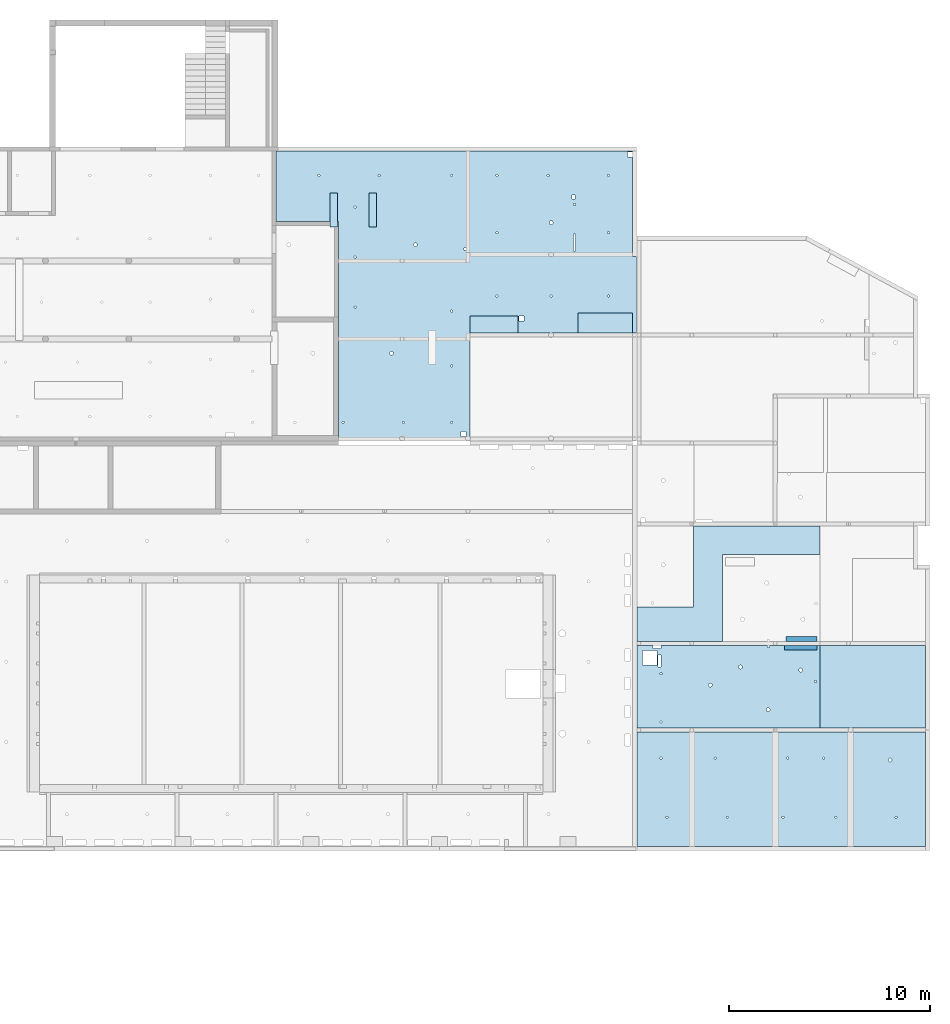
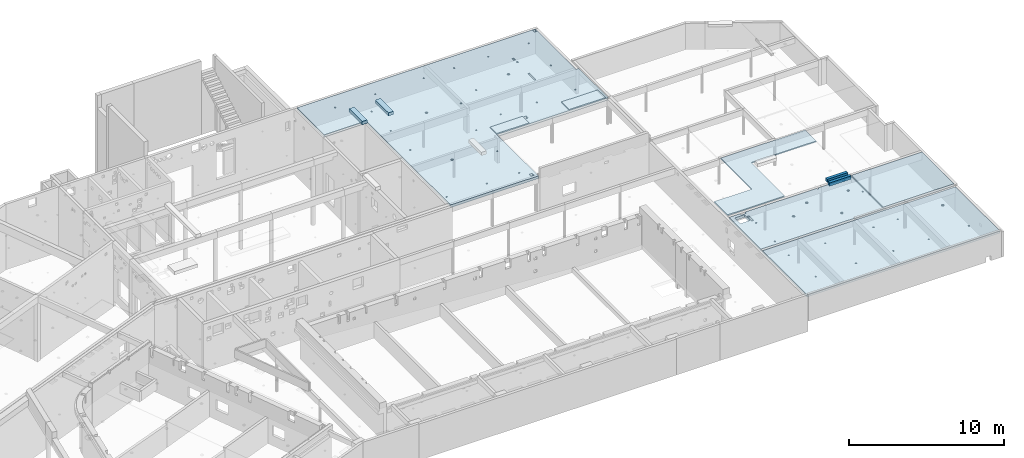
# One storey, part 12 of 28: 11 slabs, 54 openings.
"""IFC2X3 building model written with IfcOpenShell, lengths in metres."""

from ifc_helpers import new_model, entity, si_unit, converted_unit, direction, frame, frame_2d, origin, origin_with_axes, origin_2d_with_axis, place, context, subcontext, project, spatial, polyline, rectangle, circle, outline, extrude, material, element, save


model = new_model("IFC2X3")

# Units and contexts
model_context = context("Model", 3, precision=1e-05, world=origin(), true_north=direction((-0.407059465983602, -0.913401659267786)))
body_context = subcontext(model_context, "Body", "Model", "MODEL_VIEW")
ifc_project = project(units=[si_unit("LENGTHUNIT", "METRE"), si_unit("AREAUNIT", "SQUARE_METRE"), si_unit("VOLUMEUNIT", "CUBIC_METRE"), si_unit("MASSUNIT", "GRAM", prefix="KILO"), converted_unit("PLANEANGLEUNIT", "DEGREE", entity("IfcPlaneAngleMeasure", 0.0174532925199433), si_unit("PLANEANGLEUNIT", "RADIAN"), dimensions=[0, 0, 0, 0, 0, 0, 0])], contexts=[model_context])

# Site, buildings, storey
site_placement = place(None, origin())
site = spatial("IfcSite", under=ifc_project, at=site_placement, Name="Site", CompositionType="ELEMENT")
building_1_placement = place(site_placement, origin())
building_1 = spatial("IfcBuilding", under=site, at=building_1_placement, Name="Site", CompositionType="COMPLEX")
building_2_placement = place(building_1_placement, origin())
building_2 = spatial("IfcBuilding", under=building_1, at=building_2_placement, Name="Bâtiments", CompositionType="ELEMENT")
storey_placement = place(building_2_placement, frame((0.0, 0.0, -5.3)))
storey = spatial("IfcBuildingStorey", under=building_2, at=storey_placement, Name="SOUS-SOL", CompositionType="ELEMENT", Elevation=-5.3)

# Slabs
ifc_material_1 = material(Name="Dalle_BA")
slab_1_placement = place(storey_placement, frame((48.1333512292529, 5.44096103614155, 5.18)))
element("IfcSlab", 1, at=slab_1_placement, inside=storey, material=ifc_material_1, PredefinedType="FLOOR", context=body_context, shape_type="SweptSolid", body=[
    extrude(rectangle(XDim=1.68, YDim=0.38, at=frame_2d((0.19, -0.840000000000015), x_axis=(0.0, -1.0))), frame((0.0, 1.68000000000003, 0.0), z_axis=(0.0, 0.0, 1.0), x_axis=(1.0, 0.0, 0.0)), (0.0, 0.0, 1.0), 0.26),
])
ifc_material_2 = material(Name="Dalle_BA")
slab_2_placement = place(storey_placement, frame((50.0832004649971, 5.44068952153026, 5.18)))
element("IfcSlab", 2, at=slab_2_placement, inside=storey, material=ifc_material_2, PredefinedType="FLOOR", context=body_context, shape_type="SweptSolid", body=[
    extrude(rectangle(XDim=1.68, YDim=0.38, at=frame_2d((0.19, -0.840000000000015), x_axis=(0.0, -1.0))), frame((0.0, 1.68000000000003, 0.0), z_axis=(0.0, 0.0, 1.0), x_axis=(1.0, 0.0, 0.0)), (0.0, 0.0, 1.0), 0.26),
])

# Slab, openings
ifc_material_3 = material(Name="Béton")
slab_3_placement = place(storey_placement, frame((45.4426440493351, -5.21895159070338, 4.98)))
slab_3 = element("IfcSlab", 3, at=slab_3_placement, inside=storey, material=ifc_material_3, PredefinedType="FLOOR", context=body_context, shape_type="SweptSolid", body=[
    extrude(outline(polyline([(7.27595761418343e-15, 10.9174168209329), (3.12205293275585, 10.9174168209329), (3.12205293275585, 1.41233578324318e-05), (9.66983735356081, 0.0), (9.6698326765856, 5.3706806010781), (17.9707460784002, 5.37068060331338), (17.9707461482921, 9.17483260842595), (17.7707461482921, 9.17483261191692), (17.7707462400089, 14.4293388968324), (0.0, 14.4293388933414), (7.27595761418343e-15, 10.9174168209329)])), origin_with_axes(), (0.0, 0.0, 1.0), 0.2),
])
opening_1_placement = place(slab_3_placement, frame((5.66551482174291, 4.27169191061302, 0.0)))
element("IfcOpeningElement", 4, at=opening_1_placement, cuts=slab_3, Name="Trémie dans dalle", ObjectType="Opening", context=body_context, shape_type="SweptSolid", body=[
    extrude(circle(Radius=0.0900000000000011, at=origin_2d_with_axis()), frame((0.089628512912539, 0.0896285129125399, 0.0), z_axis=(0.0, 0.0, 1.0), x_axis=(1.0, 0.0, 0.0)), (0.0, 0.0, 1.0), 0.2),
])
opening_2_placement = place(slab_3_placement, frame((6.86749722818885, 9.67670728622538, 0.0)))
element("IfcOpeningElement", 5, at=opening_2_placement, cuts=slab_3, Name="Trémie dans dalle", ObjectType="Opening", context=body_context, shape_type="SweptSolid", body=[
    extrude(circle(Radius=0.0900000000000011, at=frame_2d((-1.45519152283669e-14, 9.09494701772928e-16), x_axis=(1.0, 0.0))), frame((0.0896285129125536, 0.089628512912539, 0.0), z_axis=(0.0, 0.0, 1.0), x_axis=(1.0, 0.0, 0.0)), (0.0, 0.0, 1.0), 0.2),
])
opening_3_placement = place(slab_3_placement, frame((3.90236731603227, 11.5939776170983, 0.0)))
element("IfcOpeningElement", 6, at=opening_3_placement, cuts=slab_3, Name="Trémie dans dalle", ObjectType="Opening", context=body_context, shape_type="SweptSolid", body=[
    extrude(circle(Radius=0.05, at=frame_2d((1.45519152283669e-14, 0.0), x_axis=(1.0, 0.0))), frame((0.0497936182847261, 0.0497936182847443, 0.0), z_axis=(0.0, 0.0, 1.0), x_axis=(1.0, 0.0, 0.0)), (0.0, 0.0, 1.0), 0.2),
])
opening_4_placement = place(slab_3_placement, frame((3.90271825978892, 9.10071324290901, 0.0)))
element("IfcOpeningElement", 7, at=opening_4_placement, cuts=slab_3, Name="Trémie dans dalle", ObjectType="Opening", context=body_context, shape_type="SweptSolid", body=[
    extrude(circle(Radius=0.05, at=frame_2d((-1.45519152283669e-14, 0.0), x_axis=(1.0, 0.0))), frame((0.0497936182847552, 0.0497936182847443, 0.0), z_axis=(0.0, 0.0, 1.0), x_axis=(1.0, 0.0, 0.0)), (0.0, 0.0, 1.0), 0.2),
])
opening_5_placement = place(slab_3_placement, frame((3.90308010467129, 6.60742084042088, 0.0)))
element("IfcOpeningElement", 8, at=opening_5_placement, cuts=slab_3, Name="Trémie dans dalle", ObjectType="Opening", context=body_context, shape_type="SweptSolid", body=[
    extrude(circle(Radius=0.05, at=frame_2d((-1.45519152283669e-14, -4.54747350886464e-16), x_axis=(1.0, 0.0))), frame((0.0497936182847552, 0.0497936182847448, 0.0), z_axis=(0.0, 0.0, 1.0), x_axis=(1.0, 0.0, 0.0)), (0.0, 0.0, 1.0), 0.2),
])
opening_6_placement = place(slab_3_placement, frame((8.7143975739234, 6.41154218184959, 0.0)))
element("IfcOpeningElement", 9, at=opening_6_placement, cuts=slab_3, Name="Trémie dans dalle", ObjectType="Opening", context=body_context, shape_type="SweptSolid", body=[
    extrude(circle(Radius=0.05, at=origin_2d_with_axis()), frame((0.0497936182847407, 0.0497936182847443, 0.0), z_axis=(0.0, 0.0, 1.0), x_axis=(1.0, 0.0, 0.0)), (0.0, 0.0, 1.0), 0.2),
])
opening_7_placement = place(slab_3_placement, frame((8.71439759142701, 3.68179981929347, 0.0)))
element("IfcOpeningElement", 10, at=opening_7_placement, cuts=slab_3, Name="Trémie dans dalle", ObjectType="Opening", context=body_context, shape_type="SweptSolid", body=[
    extrude(circle(Radius=0.05, at=frame_2d((7.27595761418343e-15, -4.54747350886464e-16), x_axis=(1.0, 0.0))), frame((0.0497936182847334, 0.0497936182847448, 0.0), z_axis=(0.0, 0.0, 1.0), x_axis=(1.0, 0.0, 0.0)), (0.0, 0.0, 1.0), 0.2),
])
opening_8_placement = place(slab_3_placement, frame((8.71030574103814, 0.863542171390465, 0.0)))
element("IfcOpeningElement", 11, at=opening_8_placement, cuts=slab_3, Name="Trémie dans dalle", ObjectType="Opening", context=body_context, shape_type="SweptSolid", body=[
    extrude(circle(Radius=0.05, at=frame_2d((1.45519152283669e-14, 9.09494701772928e-16), x_axis=(1.0, 0.0))), frame((0.0497936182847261, 0.0497936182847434, 0.0), z_axis=(0.0, 0.0, 1.0), x_axis=(1.0, 0.0, 0.0)), (0.0, 0.0, 1.0), 0.2),
])
opening_9_placement = place(slab_3_placement, frame((6.30634099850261, 0.863542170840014, 0.0)))
element("IfcOpeningElement", 12, at=opening_9_placement, cuts=slab_3, Name="Trémie dans dalle", ObjectType="Opening", context=body_context, shape_type="SweptSolid", body=[
    extrude(circle(Radius=0.05, at=frame_2d((7.27595761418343e-15, -9.09494701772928e-16), x_axis=(1.0, 0.0))), frame((0.0497936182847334, 0.0497936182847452, 0.0), z_axis=(0.0, 0.0, 1.0), x_axis=(1.0, 0.0, 0.0)), (0.0, 0.0, 1.0), 0.2),
])
opening_10_placement = place(slab_3_placement, frame((3.30138497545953, 0.863430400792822, 0.0)))
element("IfcOpeningElement", 13, at=opening_10_placement, cuts=slab_3, Name="Trémie dans dalle", ObjectType="Opening", context=body_context, shape_type="SweptSolid", body=[
    extrude(circle(Radius=0.05, at=frame_2d((-1.45519152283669e-14, -1.81898940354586e-15), x_axis=(1.0, 0.0))), frame((0.0497936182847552, 0.0497936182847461, 0.0), z_axis=(0.0, 0.0, 1.0), x_axis=(1.0, 0.0, 0.0)), (0.0, 0.0, 1.0), 0.2),
])
opening_11_placement = place(slab_3_placement, frame((2.09936731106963, 13.1725427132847, 0.0)))
element("IfcOpeningElement", 14, at=opening_11_placement, cuts=slab_3, Name="Trémie dans dalle", ObjectType="Opening", context=body_context, shape_type="SweptSolid", body=[
    extrude(circle(Radius=0.05, at=frame_2d((0.0, 1.81898940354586e-15), x_axis=(1.0, 0.0))), frame((0.0497936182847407, 0.0497936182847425, 0.0), z_axis=(0.0, 0.0, 1.0), x_axis=(1.0, 0.0, 0.0)), (0.0, 0.0, 1.0), 0.2),
])
opening_12_placement = place(slab_3_placement, frame((5.10436731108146, 13.1725422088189, 0.0)))
element("IfcOpeningElement", 15, at=opening_12_placement, cuts=slab_3, Name="Trémie dans dalle", ObjectType="Opening", context=body_context, shape_type="SweptSolid", body=[
    extrude(circle(Radius=0.05, at=frame_2d((-1.45519152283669e-14, -4.54747350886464e-15), x_axis=(1.0, 0.0))), frame((0.0497936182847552, 0.0497936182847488, 0.0), z_axis=(0.0, 0.0, 1.0), x_axis=(1.0, 0.0, 0.0)), (0.0, 0.0, 1.0), 0.2),
])
opening_13_placement = place(slab_3_placement, frame((8.71036731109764, 13.1725421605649, 0.0)))
element("IfcOpeningElement", 16, at=opening_13_placement, cuts=slab_3, Name="Trémie dans dalle", ObjectType="Opening", context=body_context, shape_type="SweptSolid", body=[
    extrude(circle(Radius=0.05, at=frame_2d((1.45519152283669e-14, 0.0), x_axis=(1.0, 0.0))), frame((0.0497936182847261, 0.0497936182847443, 0.0), z_axis=(0.0, 0.0, 1.0), x_axis=(1.0, 0.0, 0.0)), (0.0, 0.0, 1.0), 0.2),
])
opening_14_placement = place(slab_3_placement, frame((16.529009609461, 13.1738818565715, 0.0)))
element("IfcOpeningElement", 17, at=opening_14_placement, cuts=slab_3, Name="Trémie dans dalle", ObjectType="Opening", context=body_context, shape_type="SweptSolid", body=[
    extrude(circle(Radius=0.05, at=frame_2d((0.0, 1.81898940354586e-15), x_axis=(1.0, 0.0))), frame((0.0497936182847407, 0.0497936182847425, 0.0), z_axis=(0.0, 0.0, 1.0), x_axis=(1.0, 0.0, 0.0)), (0.0, 0.0, 1.0), 0.2),
])
opening_15_placement = place(slab_3_placement, frame((13.524687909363, 13.1725176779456, 0.0)))
element("IfcOpeningElement", 18, at=opening_15_placement, cuts=slab_3, Name="Trémie dans dalle", ObjectType="Opening", context=body_context, shape_type="SweptSolid", body=[
    extrude(circle(Radius=0.05, at=frame_2d((-7.27595761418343e-15, 1.81898940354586e-15), x_axis=(1.0, 0.0))), frame((0.0497936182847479, 0.0497936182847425, 0.0), z_axis=(0.0, 0.0, 1.0), x_axis=(1.0, 0.0, 0.0)), (0.0, 0.0, 1.0), 0.2),
])
opening_16_placement = place(slab_3_placement, frame((10.9691879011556, 13.172517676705, 0.0)))
element("IfcOpeningElement", 19, at=opening_16_placement, cuts=slab_3, Name="Trémie dans dalle", ObjectType="Opening", context=body_context, shape_type="SweptSolid", body=[
    extrude(circle(Radius=0.05, at=frame_2d((7.27595761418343e-15, 0.0), x_axis=(1.0, 0.0))), frame((0.0497936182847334, 0.0497936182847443, 0.0), z_axis=(0.0, 0.0, 1.0), x_axis=(1.0, 0.0, 0.0)), (0.0, 0.0, 1.0), 0.2),
])
opening_17_placement = place(slab_3_placement, frame((10.9691879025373, 10.3175421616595, 0.0)))
element("IfcOpeningElement", 20, at=opening_17_placement, cuts=slab_3, Name="Trémie dans dalle", ObjectType="Opening", context=body_context, shape_type="SweptSolid", body=[
    extrude(circle(Radius=0.05, at=frame_2d((-7.27595761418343e-15, -1.81898940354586e-15), x_axis=(1.0, 0.0))), frame((0.0497936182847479, 0.0497936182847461, 0.0), z_axis=(0.0, 0.0, 1.0), x_axis=(1.0, 0.0, 0.0)), (0.0, 0.0, 1.0), 0.2),
])
opening_18_placement = place(slab_3_placement, frame((10.9691879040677, 7.16254218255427, 0.0)))
element("IfcOpeningElement", 21, at=opening_18_placement, cuts=slab_3, Name="Trémie dans dalle", ObjectType="Opening", context=body_context, shape_type="SweptSolid", body=[
    extrude(circle(Radius=0.05, at=frame_2d((-1.45519152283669e-14, 0.0), x_axis=(1.0, 0.0))), frame((0.0497936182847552, 0.0497936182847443, 0.0), z_axis=(0.0, 0.0, 1.0), x_axis=(1.0, 0.0, 0.0)), (0.0, 0.0, 1.0), 0.2),
])
opening_19_placement = place(slab_3_placement, frame((13.6674187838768, 7.1625421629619, 0.0)))
element("IfcOpeningElement", 22, at=opening_19_placement, cuts=slab_3, Name="Trémie dans dalle", ObjectType="Opening", context=body_context, shape_type="SweptSolid", body=[
    extrude(circle(Radius=0.05, at=frame_2d((-1.45519152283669e-14, 0.0), x_axis=(1.0, 0.0))), frame((0.0497936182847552, 0.0497936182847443, 0.0), z_axis=(0.0, 0.0, 1.0), x_axis=(1.0, 0.0, 0.0)), (0.0, 0.0, 1.0), 0.2),
])
opening_20_placement = place(slab_3_placement, frame((16.5296878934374, 7.16254220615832, 0.0)))
element("IfcOpeningElement", 23, at=opening_20_placement, cuts=slab_3, Name="Trémie dans dalle", ObjectType="Opening", context=body_context, shape_type="SweptSolid", body=[
    extrude(circle(Radius=0.05, at=frame_2d((7.27595761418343e-15, 0.0), x_axis=(1.0, 0.0))), frame((0.0497936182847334, 0.0497936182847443, 0.0), z_axis=(0.0, 0.0, 1.0), x_axis=(1.0, 0.0, 0.0)), (0.0, 0.0, 1.0), 0.2),
])
opening_21_placement = place(slab_3_placement, frame((16.529348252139, 10.3175421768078, 0.0)))
element("IfcOpeningElement", 24, at=opening_21_placement, cuts=slab_3, Name="Trémie dans dalle", ObjectType="Opening", context=body_context, shape_type="SweptSolid", body=[
    extrude(circle(Radius=0.05, at=frame_2d((1.45519152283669e-14, -1.81898940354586e-15), x_axis=(1.0, 0.0))), frame((0.0497936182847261, 0.0497936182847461, 0.0), z_axis=(0.0, 0.0, 1.0), x_axis=(1.0, 0.0, 0.0)), (0.0, 0.0, 1.0), 0.2),
])
opening_22_placement = place(slab_3_placement, frame((13.630276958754, 10.7813385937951, 0.0)))
element("IfcOpeningElement", 25, at=opening_22_placement, cuts=slab_3, Name="Trémie dans dalle", ObjectType="Opening", context=body_context, shape_type="SweptSolid", body=[
    extrude(circle(Radius=0.0900000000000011, at=frame_2d((7.27595761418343e-15, 9.09494701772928e-16), x_axis=(1.0, 0.0))), frame((0.0896285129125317, 0.089628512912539, 0.0), z_axis=(0.0, 0.0, 1.0), x_axis=(1.0, 0.0, 0.0)), (0.0, 0.0, 1.0), 0.2),
])
opening_23_placement = place(slab_3_placement, frame((14.8419291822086, 11.7212059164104, 0.0)))
element("IfcOpeningElement", 26, at=opening_23_placement, cuts=slab_3, Name="Trémie dans dalle", ObjectType="Opening", context=body_context, shape_type="SweptSolid", body=[
    extrude(rectangle(XDim=0.1, YDim=0.1, at=frame_2d((-7.27595761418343e-15, 0.0), x_axis=(0.0, -1.0))), frame((0.0500000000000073, 0.05, 0.0), z_axis=(0.0, 0.0, 1.0), x_axis=(1.0, 0.0, 0.0)), (0.0, 0.0, 1.0), 0.2),
])
opening_24_placement = place(slab_3_placement, frame((9.7530670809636, 6.12425040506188, 0.0)))
element("IfcOpeningElement", 27, at=opening_24_placement, cuts=slab_3, Name="Trémie dans dalle", ObjectType="Opening", context=body_context, shape_type="SweptSolid", body=[
    extrude(rectangle(XDim=0.1, YDim=0.15, at=frame_2d((1.45519152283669e-14, 0.0), x_axis=(0.0, -1.0))), frame((0.0749999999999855, 0.05, 0.0), z_axis=(0.0, 0.0, 1.0), x_axis=(1.0, 0.0, 0.0)), (0.0, 0.0, 1.0), 0.2),
])
opening_25_placement = place(slab_3_placement, frame((9.21992417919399, 0.200514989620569, 0.0)))
element("IfcOpeningElement", 28, at=opening_25_placement, cuts=slab_3, Name="Trémie dans dalle", ObjectType="Opening", context=body_context, shape_type="SweptSolid", body=[
    extrude(rectangle(XDim=0.25, YDim=0.25, at=frame_2d((7.27595761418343e-15, 0.0), x_axis=(0.0, -1.0))), frame((0.124999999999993, 0.125, 0.0), z_axis=(0.0, 0.0, 1.0), x_axis=(1.0, 0.0, 0.0)), (0.0, 0.0, 1.0), 0.2),
])
opening_26_placement = place(slab_3_placement, frame((9.36899129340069, 9.51090164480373, 0.0)))
element("IfcOpeningElement", 29, at=opening_26_placement, cuts=slab_3, Name="Trémie dans dalle", ObjectType="Opening", context=body_context, shape_type="SweptSolid", body=[
    extrude(rectangle(XDim=0.1, YDim=0.1, at=frame_2d((0.0, 0.0), x_axis=(0.0, -1.0))), frame((0.05, 0.05, 0.0), z_axis=(0.0, 0.0, 1.0), x_axis=(1.0, 0.0, 0.0)), (0.0, 0.0, 1.0), 0.2),
])
opening_27_placement = place(slab_3_placement, frame((17.5205746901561, 14.1405299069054, 0.0)))
element("IfcOpeningElement", 30, at=opening_27_placement, cuts=slab_3, Name="Trémie dans dalle", ObjectType="Opening", context=body_context, shape_type="SweptSolid", body=[
    extrude(rectangle(XDim=0.25, YDim=0.25, at=frame_2d((7.27595761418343e-15, 0.0), x_axis=(0.0, -1.0))), frame((0.124999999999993, 0.125, 0.0), z_axis=(0.0, 0.0, 1.0), x_axis=(1.0, 0.0, 0.0)), (0.0, 0.0, 1.0), 0.2),
])
opening_28_placement = place(slab_3_placement, frame((14.7718469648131, 12.0602854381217, 0.0)))
element("IfcOpeningElement", 31, at=opening_28_placement, cuts=slab_3, Name="Trémie dans dalle", ObjectType="Opening", context=body_context, shape_type="SweptSolid", body=[
    extrude(rectangle(XDim=0.2, YDim=0.15, at=frame_2d((0.0, 0.0), x_axis=(0.0, -1.0))), frame((0.075, 0.1, 0.0), z_axis=(0.0, 0.0, 1.0), x_axis=(1.0, 0.0, 0.0)), (0.0, 0.0, 1.0), 0.2),
])
opening_29_placement = place(slab_3_placement, frame((12.117556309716, 5.97383816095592, 0.0)))
element("IfcOpeningElement", 32, at=opening_29_placement, cuts=slab_3, Name="Trémie dans dalle", ObjectType="Opening", context=body_context, shape_type="SweptSolid", body=[
    extrude(rectangle(XDim=0.25, YDim=0.25, at=frame_2d((7.27595761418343e-15, 0.0), x_axis=(0.0, -1.0))), frame((0.124999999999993, 0.125, 0.0), z_axis=(0.0, 0.0, 1.0), x_axis=(1.0, 0.0, 0.0)), (0.0, 0.0, 1.0), 0.2),
])
opening_30_placement = place(slab_3_placement, frame((14.8366754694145, 9.46173677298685, 0.0)))
element("IfcOpeningElement", 33, at=opening_30_placement, cuts=slab_3, Name="Trémie dans dalle", ObjectType="Opening", context=body_context, shape_type="SweptSolid", body=[
    extrude(rectangle(XDim=0.85, YDim=0.1, at=frame_2d((1.45519152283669e-14, 0.0), x_axis=(0.0, -1.0))), frame((0.0499999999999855, 0.425, 0.0), z_axis=(0.0, 0.0, 1.0), x_axis=(1.0, 0.0, 0.0)), (0.0, 0.0, 1.0), 0.2),
])

# Slabs
ifc_material_4 = material(Name="Dalle_BA")
slab_4_placement = place(storey_placement, frame((55.1125323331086, 0.151729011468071, 5.18)))
element("IfcSlab", 34, at=slab_4_placement, inside=storey, material=ifc_material_4, PredefinedType="FLOOR", context=body_context, shape_type="SweptSolid", body=[
    extrude(rectangle(XDim=0.852908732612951, YDim=2.40954619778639, at=frame_2d((1.20477309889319, -0.426454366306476), x_axis=(0.0, -1.0))), frame((0.0, 0.852908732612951, 0.0), z_axis=(0.0, 0.0, 1.0), x_axis=(1.0, 0.0, 0.0)), (0.0, 0.0, 1.0), 0.08),
])
ifc_material_5 = material(Name="Béton")
slab_5_placement = place(storey_placement, frame((70.798060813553, -15.6366443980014, 5.18)))
element("IfcSlab", 35, at=slab_5_placement, inside=storey, material=ifc_material_5, PredefinedType="FLOOR", context=body_context, shape_type="SweptSolid", body=[
    extrude(outline(polyline([(0.0, 0.223390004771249), (4.31107589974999e-07, 2.91038304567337e-14), (1.60494329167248, 0.0), (1.60494329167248, 0.223389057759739), (0.0, 0.223390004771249)])), origin_with_axes(), (0.0, 0.0, 1.0), 0.26),
])
ifc_material_6 = material(Name="Béton")
slab_6_placement = place(storey_placement, frame((72.5530041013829, -19.5392344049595, 5.1)))
element("IfcSlab", 36, at=slab_6_placement, inside=storey, material=ifc_material_6, PredefinedType="FLOOR", context=body_context, shape_type="SweptSolid", body=[
    extrude(outline(polyline([(0.0, 4.12606142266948), (3.84257873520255e-09, 0.0), (5.26010213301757, 0.0), (5.26010660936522, 4.12629885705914), (0.0, 4.12606142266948)])), origin_with_axes(), (0.0, 0.0, 1.0), 0.2),
])

# Slab, openings
ifc_material_7 = material(Name="Béton")
slab_7_placement = place(storey_placement, frame((63.4333554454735, -19.5400431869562, 4.98)))
slab_7 = element("IfcSlab", 37, at=slab_7_placement, inside=storey, material=ifc_material_7, PredefinedType="FLOOR", context=body_context, shape_type="SweptSolid", body=[
    extrude(rectangle(XDim=4.12670474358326, YDim=9.31965629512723, at=frame_2d((4.65982814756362, -2.06335237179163), x_axis=(0.0, -1.0))), frame((0.0, 4.12670474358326, 0.0), z_axis=(0.0, 0.0, 1.0), x_axis=(1.0, 0.0, 0.0)), (0.0, 0.0, 1.0), 0.2),
])
opening_31_placement = place(slab_7_placement, frame((8.08116667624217, 2.80605389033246, 0.0)))
element("IfcOpeningElement", 38, at=opening_31_placement, cuts=slab_7, Name="Trémie dans dalle", ObjectType="Opening", context=body_context, shape_type="SweptSolid", body=[
    extrude(circle(Radius=0.0899999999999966, at=origin_2d_with_axis()), frame((0.0896285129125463, 0.089628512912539, 0.0), z_axis=(0.0, 0.0, 1.0), x_axis=(1.0, 0.0, 0.0)), (0.0, 0.0, 1.0), 0.2),
])
opening_32_placement = place(slab_7_placement, frame((5.07616667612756, 2.95655388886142, 0.0)))
element("IfcOpeningElement", 39, at=opening_32_placement, cuts=slab_7, Name="Trémie dans dalle", ObjectType="Opening", context=body_context, shape_type="SweptSolid", body=[
    extrude(circle(Radius=0.0899999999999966, at=frame_2d((-1.45519152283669e-14, 3.63797880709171e-15), x_axis=(1.0, 0.0))), frame((0.0896285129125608, 0.0896285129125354, 0.0), z_axis=(0.0, 0.0, 1.0), x_axis=(1.0, 0.0, 0.0)), (0.0, 0.0, 1.0), 0.2),
])
opening_33_placement = place(slab_7_placement, frame((3.57366667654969, 2.05355388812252, 0.0)))
element("IfcOpeningElement", 40, at=opening_33_placement, cuts=slab_7, Name="Trémie dans dalle", ObjectType="Opening", context=body_context, shape_type="SweptSolid", body=[
    extrude(circle(Radius=0.0899999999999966, at=frame_2d((2.91038304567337e-14, 0.0), x_axis=(1.0, 0.0))), frame((0.0896285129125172, 0.089628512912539, 0.0), z_axis=(0.0, 0.0, 1.0), x_axis=(1.0, 0.0, 0.0)), (0.0, 0.0, 1.0), 0.2),
])
opening_34_placement = place(slab_7_placement, frame((6.45666789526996, 0.823371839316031, 0.0)))
element("IfcOpeningElement", 41, at=opening_34_placement, cuts=slab_7, Name="Trémie dans dalle", ObjectType="Opening", context=body_context, shape_type="SweptSolid", body=[
    extrude(circle(Radius=0.0899999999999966, at=frame_2d((1.45519152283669e-14, -7.27595761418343e-15), x_axis=(1.0, 0.0))), frame((0.0896285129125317, 0.0896285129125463, 0.0), z_axis=(0.0, 0.0, 1.0), x_axis=(1.0, 0.0, 0.0)), (0.0, 0.0, 1.0), 0.2),
])
opening_35_placement = place(slab_7_placement, frame((1.15373158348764, 2.65928672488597, 0.0)))
element("IfcOpeningElement", 42, at=opening_35_placement, cuts=slab_7, Name="Trémie dans dalle", ObjectType="Opening", context=body_context, shape_type="SweptSolid", body=[
    extrude(circle(Radius=0.0499999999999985, at=frame_2d((7.27595761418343e-15, -7.27595761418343e-15), x_axis=(1.0, 0.0))), frame((0.0497936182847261, 0.0497936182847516, 0.0), z_axis=(0.0, 0.0, 1.0), x_axis=(1.0, 0.0, 0.0)), (0.0, 0.0, 1.0), 0.2),
])
opening_36_placement = place(slab_7_placement, frame((1.15373158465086, 0.255286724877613, 0.0)))
element("IfcOpeningElement", 43, at=opening_36_placement, cuts=slab_7, Name="Trémie dans dalle", ObjectType="Opening", context=body_context, shape_type="SweptSolid", body=[
    extrude(circle(Radius=0.0499999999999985, at=frame_2d((7.27595761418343e-15, 0.0), x_axis=(1.0, 0.0))), frame((0.0497936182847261, 0.0497936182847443, 0.0), z_axis=(0.0, 0.0, 1.0), x_axis=(1.0, 0.0, 0.0)), (0.0, 0.0, 1.0), 0.2),
])
opening_37_placement = place(slab_7_placement, frame((1.06004181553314, 3.03821109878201, 0.0)))
element("IfcOpeningElement", 44, at=opening_37_placement, cuts=slab_7, Name="Trémie dans dalle", ObjectType="Opening", context=body_context, shape_type="SweptSolid", body=[
    extrude(rectangle(XDim=0.599999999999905, YDim=0.150000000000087, at=frame_2d((1.45519152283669e-14, 0.0), x_axis=(0.0, -1.0))), frame((0.0750000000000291, 0.299999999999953, 0.0), z_axis=(0.0, 0.0, 1.0), x_axis=(1.0, 0.0, 0.0)), (0.0, 0.0, 1.0), 0.2),
])
opening_38_placement = place(slab_7_placement, frame((0.287207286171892, 3.14578640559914, 0.0)))
element("IfcOpeningElement", 45, at=opening_38_placement, cuts=slab_7, Name="Trémie dans dalle", ObjectType="Opening", context=body_context, shape_type="SweptSolid", body=[
    extrude(rectangle(XDim=0.730000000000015, YDim=0.73, at=frame_2d((0.0, 0.0), x_axis=(0.0, -1.0))), frame((0.365, 0.365000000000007, 0.0), z_axis=(0.0, 0.0, 1.0), x_axis=(1.0, 0.0, 0.0)), (0.0, 0.0, 1.0), 0.2),
])
opening_39_placement = place(slab_7_placement, frame((0.800148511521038, 3.9768219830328, 0.0)))
element("IfcOpeningElement", 46, at=opening_39_placement, cuts=slab_7, Name="Trémie dans dalle", ObjectType="Opening", context=body_context, shape_type="SweptSolid", body=[
    extrude(rectangle(XDim=0.15, YDim=0.4, at=frame_2d((0.0, 0.0), x_axis=(0.0, -1.0))), frame((0.2, 0.075, 0.0), z_axis=(0.0, 0.0, 1.0), x_axis=(1.0, 0.0, 0.0)), (0.0, 0.0, 1.0), 0.2),
])
opening_40_placement = place(slab_7_placement, frame((9.11964865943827, 0.237601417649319, 0.0)))
element("IfcOpeningElement", 47, at=opening_40_placement, cuts=slab_7, Name="Trémie dans dalle", ObjectType="Opening", context=body_context, shape_type="SweptSolid", body=[
    extrude(rectangle(XDim=0.1, YDim=0.1, at=frame_2d((0.0, 0.0), x_axis=(0.0, -1.0))), frame((0.05, 0.05, 0.0), z_axis=(0.0, 0.0, 1.0), x_axis=(1.0, 0.0, 0.0)), (0.0, 0.0, 1.0), 0.2),
])
opening_41_placement = place(slab_7_placement, frame((9.11964865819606, 1.57145444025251, 0.0)))
element("IfcOpeningElement", 48, at=opening_41_placement, cuts=slab_7, Name="Trémie dans dalle", ObjectType="Opening", context=body_context, shape_type="SweptSolid", body=[
    extrude(rectangle(XDim=0.1, YDim=0.1, at=frame_2d((0.0, -3.63797880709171e-15), x_axis=(0.0, -1.0))), frame((0.05, 0.0500000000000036, 0.0), z_axis=(0.0, 0.0, 1.0), x_axis=(1.0, 0.0, 0.0)), (0.0, 0.0, 1.0), 0.2),
])
opening_42_placement = place(slab_7_placement, frame((6.52432208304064, 4.02682180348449, 0.0)))
element("IfcOpeningElement", 49, at=opening_42_placement, cuts=slab_7, Name="Trémie dans dalle", ObjectType="Opening", context=body_context, shape_type="SweptSolid", body=[
    extrude(rectangle(XDim=0.1, YDim=0.1, at=frame_2d((0.0, 0.0), x_axis=(0.0, -1.0))), frame((0.05, 0.05, 0.0), z_axis=(0.0, 0.0, 1.0), x_axis=(1.0, 0.0, 0.0)), (0.0, 0.0, 1.0), 0.2),
])
opening_43_placement = place(slab_7_placement, frame((8.40920069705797, 3.97682180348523, 0.0)))
element("IfcOpeningElement", 50, at=opening_43_placement, cuts=slab_7, Name="Trémie dans dalle", ObjectType="Opening", context=body_context, shape_type="SweptSolid", body=[
    extrude(rectangle(XDim=0.15, YDim=0.15, at=frame_2d((0.0, 0.0), x_axis=(0.0, -1.0))), frame((0.075, 0.075, 0.0), z_axis=(0.0, 0.0, 1.0), x_axis=(1.0, 0.0, 0.0)), (0.0, 0.0, 1.0), 0.2),
])
opening_44_placement = place(slab_7_placement, frame((8.85928677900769, 2.27152544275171, 0.0)))
element("IfcOpeningElement", 51, at=opening_44_placement, cuts=slab_7, Name="Trémie dans dalle", ObjectType="Opening", context=body_context, shape_type="SweptSolid", body=[
    extrude(rectangle(XDim=0.1, YDim=0.1, at=frame_2d((0.0, 0.0), x_axis=(0.0, -1.0))), frame((0.05, 0.05, 0.0), z_axis=(0.0, 0.0, 1.0), x_axis=(1.0, 0.0, 0.0)), (0.0, 0.0, 1.0), 0.2),
])

ifc_material_8 = material(Name="Béton")
slab_8_placement = place(storey_placement, frame((63.4333864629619, -25.4449283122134, 4.98)))
slab_8 = element("IfcSlab", 52, at=slab_8_placement, inside=storey, material=ifc_material_8, PredefinedType="FLOOR", context=body_context, shape_type="SweptSolid", body=[
    extrude(rectangle(XDim=5.70491099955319, YDim=14.3797153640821, at=frame_2d((7.18985768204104, -2.8524554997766), x_axis=(0.0, -1.0))), frame((0.0, 5.70491099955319, 0.0), z_axis=(0.0, 0.0, 1.0), x_axis=(1.0, 0.0, 0.0)), (0.0, 0.0, 1.0), 0.2),
])
opening_45_placement = place(slab_8_placement, frame((12.8732051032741, 1.41055222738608, 0.0)))
element("IfcOpeningElement", 53, at=opening_45_placement, cuts=slab_8, Name="Trémie dans dalle", ObjectType="Opening", context=body_context, shape_type="SweptSolid", body=[
    extrude(circle(Radius=0.0499999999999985, at=frame_2d((0.0, 3.63797880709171e-15), x_axis=(1.0, 0.0))), frame((0.0497936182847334, 0.0497936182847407, 0.0), z_axis=(0.0, 0.0, 1.0), x_axis=(1.0, 0.0, 0.0)), (0.0, 0.0, 1.0), 0.2),
])
opening_46_placement = place(slab_8_placement, frame((12.5328706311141, 4.22737507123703, 0.0)))
element("IfcOpeningElement", 54, at=opening_46_placement, cuts=slab_8, Name="Trémie dans dalle", ObjectType="Opening", context=body_context, shape_type="SweptSolid", body=[
    extrude(circle(Radius=0.0899999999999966, at=frame_2d((-1.45519152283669e-14, 1.45519152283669e-14), x_axis=(1.0, 0.0))), frame((0.0896285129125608, 0.0896285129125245, 0.0), z_axis=(0.0, 0.0, 1.0), x_axis=(1.0, 0.0, 0.0)), (0.0, 0.0, 1.0), 0.2),
])
opening_47_placement = place(slab_8_placement, frame((1.15370536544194, 4.35717230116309, 0.0)))
element("IfcOpeningElement", 55, at=opening_47_placement, cuts=slab_8, Name="Trémie dans dalle", ObjectType="Opening", context=body_context, shape_type="SweptSolid", body=[
    extrude(circle(Radius=0.0499999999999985, at=origin_2d_with_axis()), frame((0.0497936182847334, 0.0497936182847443, 0.0), z_axis=(0.0, 0.0, 1.0), x_axis=(1.0, 0.0, 0.0)), (0.0, 0.0, 1.0), 0.2),
])
opening_48_placement = place(slab_8_placement, frame((3.85820505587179, 4.3571723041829, 0.0)))
element("IfcOpeningElement", 56, at=opening_48_placement, cuts=slab_8, Name="Trémie dans dalle", ObjectType="Opening", context=body_context, shape_type="SweptSolid", body=[
    extrude(circle(Radius=0.0499999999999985, at=frame_2d((-1.45519152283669e-14, 0.0), x_axis=(1.0, 0.0))), frame((0.0497936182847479, 0.0497936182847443, 0.0), z_axis=(0.0, 0.0, 1.0), x_axis=(1.0, 0.0, 0.0)), (0.0, 0.0, 1.0), 0.2),
])
opening_49_placement = place(slab_8_placement, frame((7.46420503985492, 4.35719261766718, 0.0)))
element("IfcOpeningElement", 57, at=opening_49_placement, cuts=slab_8, Name="Trémie dans dalle", ObjectType="Opening", context=body_context, shape_type="SweptSolid", body=[
    extrude(circle(Radius=0.0499999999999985, at=frame_2d((0.0, 3.63797880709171e-15), x_axis=(1.0, 0.0))), frame((0.0497936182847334, 0.0497936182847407, 0.0), z_axis=(0.0, 0.0, 1.0), x_axis=(1.0, 0.0, 0.0)), (0.0, 0.0, 1.0), 0.2),
])
opening_50_placement = place(slab_8_placement, frame((9.26720505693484, 4.35720277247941, 0.0)))
element("IfcOpeningElement", 58, at=opening_50_placement, cuts=slab_8, Name="Trémie dans dalle", ObjectType="Opening", context=body_context, shape_type="SweptSolid", body=[
    extrude(circle(Radius=0.0499999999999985, at=frame_2d((-1.45519152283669e-14, -3.63797880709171e-15), x_axis=(1.0, 0.0))), frame((0.0497936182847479, 0.0497936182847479, 0.0), z_axis=(0.0, 0.0, 1.0), x_axis=(1.0, 0.0, 0.0)), (0.0, 0.0, 1.0), 0.2),
])
opening_51_placement = place(slab_8_placement, frame((9.86820507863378, 1.41055224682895, 0.0)))
element("IfcOpeningElement", 59, at=opening_51_placement, cuts=slab_8, Name="Trémie dans dalle", ObjectType="Opening", context=body_context, shape_type="SweptSolid", body=[
    extrude(circle(Radius=0.0499999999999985, at=frame_2d((-1.45519152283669e-14, 3.63797880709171e-15), x_axis=(1.0, 0.0))), frame((0.0497936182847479, 0.0497936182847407, 0.0), z_axis=(0.0, 0.0, 1.0), x_axis=(1.0, 0.0, 0.0)), (0.0, 0.0, 1.0), 0.2),
])
opening_52_placement = place(slab_8_placement, frame((7.23920503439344, 1.41055224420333, 0.0)))
element("IfcOpeningElement", 60, at=opening_52_placement, cuts=slab_8, Name="Trémie dans dalle", ObjectType="Opening", context=body_context, shape_type="SweptSolid", body=[
    extrude(circle(Radius=0.0499999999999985, at=frame_2d((1.45519152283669e-14, 7.27595761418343e-15), x_axis=(1.0, 0.0))), frame((0.0497936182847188, 0.049793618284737, 0.0), z_axis=(0.0, 0.0, 1.0), x_axis=(1.0, 0.0, 0.0)), (0.0, 0.0, 1.0), 0.2),
])
opening_53_placement = place(slab_8_placement, frame((4.45920503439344, 1.41055224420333, 0.0)))
element("IfcOpeningElement", 61, at=opening_53_placement, cuts=slab_8, Name="Trémie dans dalle", ObjectType="Opening", context=body_context, shape_type="SweptSolid", body=[
    extrude(circle(Radius=0.0499999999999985, at=frame_2d((1.45519152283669e-14, 7.27595761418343e-15), x_axis=(1.0, 0.0))), frame((0.0497936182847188, 0.049793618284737, 0.0), z_axis=(0.0, 0.0, 1.0), x_axis=(1.0, 0.0, 0.0)), (0.0, 0.0, 1.0), 0.2),
])
opening_54_placement = place(slab_8_placement, frame((1.45420500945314, 1.41055239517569, 0.0)))
element("IfcOpeningElement", 62, at=opening_54_placement, cuts=slab_8, Name="Trémie dans dalle", ObjectType="Opening", context=body_context, shape_type="SweptSolid", body=[
    extrude(circle(Radius=0.0499999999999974, at=frame_2d((2.91038304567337e-14, 0.0), x_axis=(1.0, 0.0))), frame((0.0497936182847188, 0.0497936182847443, 0.0), z_axis=(0.0, 0.0, 1.0), x_axis=(1.0, 0.0, 0.0)), (0.0, 0.0, 1.0), 0.2),
])

# Slabs
ifc_material_9 = material(Name="Béton")
slab_9_placement = place(storey_placement, frame((63.4333554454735, -15.2132553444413, 5.18)))
element("IfcSlab", 63, at=slab_9_placement, inside=storey, material=ifc_material_9, PredefinedType="FLOOR", context=body_context, shape_type="SweptSolid", body=[
    extrude(outline(polyline([(9.11965629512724, 5.75590015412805), (2.81437159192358, 5.75580644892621), (2.81437159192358, 1.71991059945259), (0.0, 1.71986220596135), (9.77771083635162e-05, 0.0), (4.25962202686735, 1.99437818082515e-09), (4.25962477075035, 4.3356202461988), (9.1196584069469, 4.33560990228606), (9.11965629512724, 5.75590015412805)])), origin_with_axes(), (0.0, 0.0, 1.0), 0.08),
])
ifc_material_10 = material(Name="Béton")
slab_10_placement = place(storey_placement, frame((70.8727657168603, -15.2132553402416, 5.18)))
element("IfcSlab", 64, at=slab_10_placement, inside=storey, material=ifc_material_10, PredefinedType="FLOOR", context=body_context, shape_type="SweptSolid", body=[
    extrude(outline(polyline([(0.0, 0.234865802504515), (0.0, 4.05659703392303e-06), (1.5302387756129, 0.0), (1.53011735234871, 0.234865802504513), (0.0, 0.234865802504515)])), origin_with_axes(), (0.0, 0.0, 1.0), 0.26),
])
ifc_material_11 = material(Name="Béton")
slab_11_placement = place(storey_placement, frame((60.5143639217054, 0.151828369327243, 5.18)))
element("IfcSlab", 65, at=slab_11_placement, inside=storey, material=ifc_material_11, PredefinedType="FLOOR", context=body_context, shape_type="SweptSolid", body=[
    extrude(rectangle(XDim=1.00303874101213, YDim=2.69902620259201, at=frame_2d((1.349513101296, -0.501519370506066), x_axis=(0.0, -1.0))), frame((0.0, 1.00303874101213, 0.0), z_axis=(0.0, 0.0, 1.0), x_axis=(1.0, 0.0, 0.0)), (0.0, 0.0, 1.0), 0.08),
])

save(model, "model.ifc")
